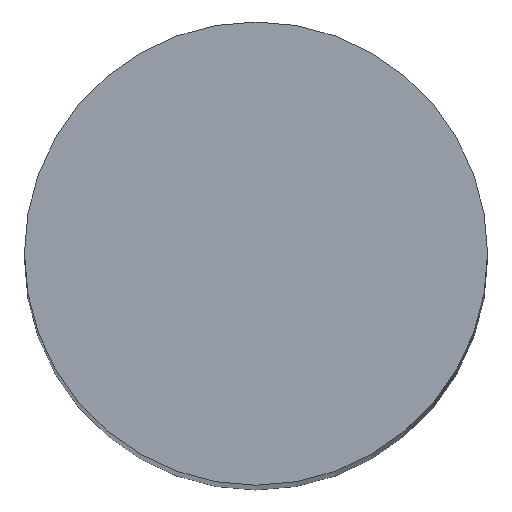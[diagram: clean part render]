
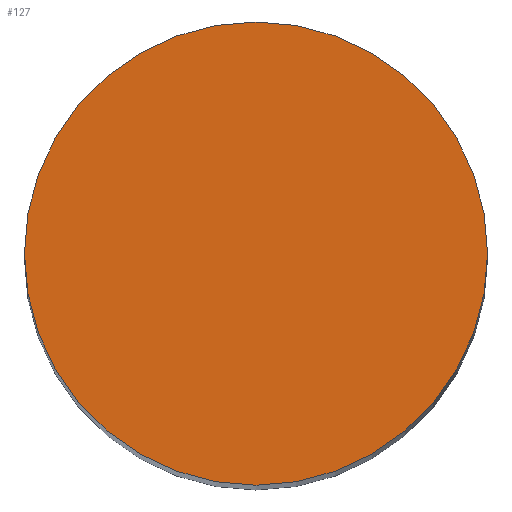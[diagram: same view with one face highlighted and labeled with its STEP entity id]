
A CAD part, top view. The second image highlights one B-rep face of the part: STEP entity #127.
In plain terms, the highlighted planar face has unit normal (0, 0, 1).
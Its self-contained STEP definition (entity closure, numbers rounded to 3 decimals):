
#3 = AXIS2_PLACEMENT_3D ( 'NONE', #129, #9, #96 ) ;
#9 = DIRECTION ( 'NONE',  ( 0., 0., 1. ) ) ;
#12 = EDGE_LOOP ( 'NONE', ( #120, #170 ) ) ;
#22 = CARTESIAN_POINT ( 'NONE',  ( 25., 0., 148. ) ) ;
#35 = PLANE ( 'NONE',  #3 ) ;
#37 = AXIS2_PLACEMENT_3D ( 'NONE', #137, #55, #146 ) ;
#40 = CIRCLE ( 'NONE', #37, 25. ) ;
#55 = DIRECTION ( 'NONE',  ( 0., 0., 1. ) ) ;
#65 = CARTESIAN_POINT ( 'NONE',  ( 0., 0., 148. ) ) ;
#83 = CIRCLE ( 'NONE', #122, 25. ) ;
#87 = DIRECTION ( 'NONE',  ( 1., 0., 0. ) ) ;
#96 = DIRECTION ( 'NONE',  ( 1., 0., 0. ) ) ;
#99 = FACE_OUTER_BOUND ( 'NONE', #12, .T. ) ;
#112 = EDGE_CURVE ( 'NONE', #165, #147, #83, .T. ) ;
#114 = CARTESIAN_POINT ( 'NONE',  ( -25., 0., 148. ) ) ;
#118 = EDGE_CURVE ( 'NONE', #147, #165, #40, .T. ) ;
#120 = ORIENTED_EDGE ( 'NONE', *, *, #112, .T. ) ;
#122 = AXIS2_PLACEMENT_3D ( 'NONE', #65, #153, #87 ) ;
#127 = ADVANCED_FACE ( 'NONE', ( #99 ), #35, .T. ) ;
#129 = CARTESIAN_POINT ( 'NONE',  ( 0., 0., 148. ) ) ;
#137 = CARTESIAN_POINT ( 'NONE',  ( 0., 0., 148. ) ) ;
#146 = DIRECTION ( 'NONE',  ( 1., 0., 0. ) ) ;
#147 = VERTEX_POINT ( 'NONE', #22 ) ;
#153 = DIRECTION ( 'NONE',  ( 0., 0., 1. ) ) ;
#165 = VERTEX_POINT ( 'NONE', #114 ) ;
#170 = ORIENTED_EDGE ( 'NONE', *, *, #118, .T. ) ;
